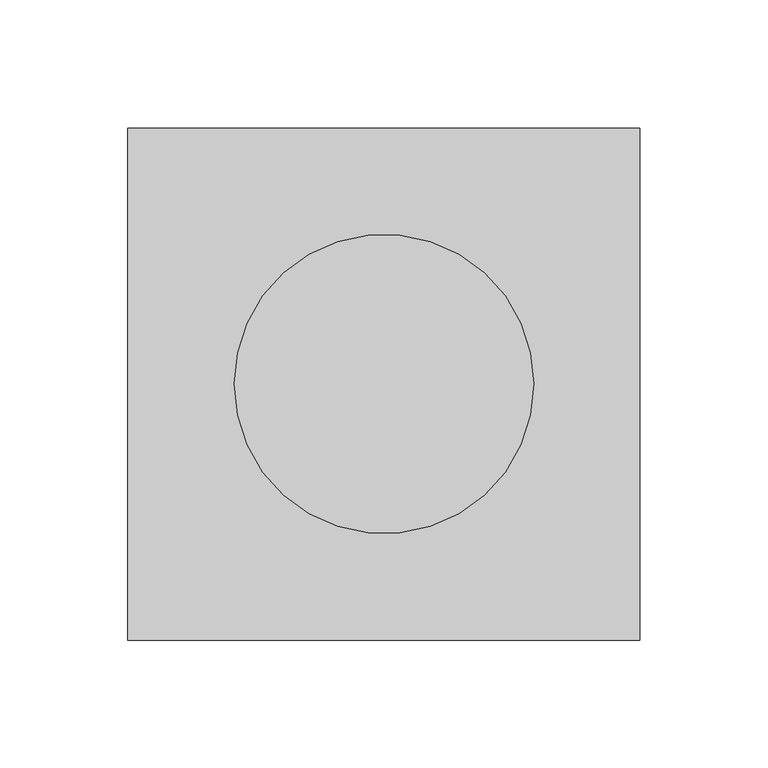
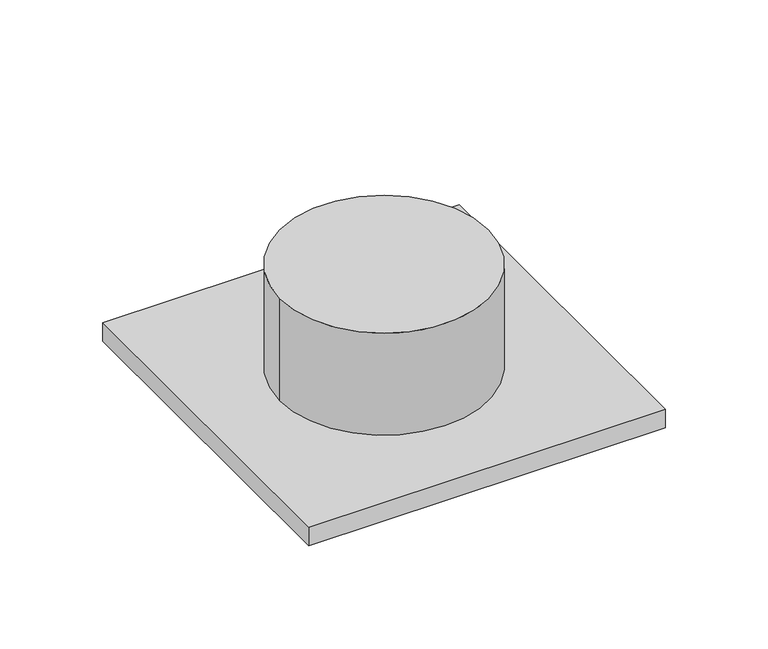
"""IFC4 building model written with IfcOpenShell, lengths in millimetres: air terminal geometry, NLRS_57_AIR_WPB_extraction air valve_M&G : Maze."""

from ifc_helpers import new_model, si_unit, point, frame, origin, origin_with_axes, origin_2d, place, context, project, spatial, polyline, circle_curve, trimmed, segment, composite_curve, outline, extrude, source, transform, mapped, element, save


def air_terminal_188eb895(model_context):
    return source(origin(), model_context, "Body", "SweptSolid", [
        extrude(outline(composite_curve([segment(trimmed(circle_curve(origin_2d(), 58.5), [point((-58.5, 0.0))], [point((58.5, 0.0))], False, "CARTESIAN"), True, "CONTINUOUS"), segment(trimmed(circle_curve(origin_2d(), 58.5), [point((58.5, 0.0))], [point((-58.5, 0.0))], False, "CARTESIAN"), True, "CONTINUOUS")], self_intersect=False)), origin_with_axes(), (0.0, 0.0, 1.0), 60.5),
        extrude(outline(polyline([(100.0, 100.0), (100.0, -100.0), (-100.0, -100.0), (-100.0, 100.0), (100.0, 100.0)])), frame((0.0, 0.0, -11.0), z_axis=(0.0, 0.0, 1.0), x_axis=(1.0, 0.0, 0.0)), (0.0, 0.0, 1.0), 11.0),
    ])


if __name__ == "__main__":
    model = new_model("IFC4")
    model_context = context("Model", 3, world=origin())
    ifc_project = project(units=[si_unit("LENGTHUNIT", "METRE", prefix="MILLI")], contexts=[model_context])
    site = spatial("IfcSite", under=ifc_project)
    building = spatial("IfcBuilding", under=site)
    placement = place(None, origin())
    air_terminal_shape = air_terminal_188eb895(model_context)
    element("IfcAirTerminal", 1, ObjectType="NLRS_57_AIR_WPB_extraction air valve_M&G : Maze", at=placement, inside=building, context=model_context, shape_type="MappedRepresentation", body=[
        mapped(air_terminal_shape, transform((0.0, 0.0, 0.0), x_axis=(1.0, 0.0, 0.0), y_axis=(0.0, 1.0, 0.0), z_axis=(0.0, 0.0, 1.0))),
    ])
    save(model, "model.ifc")
